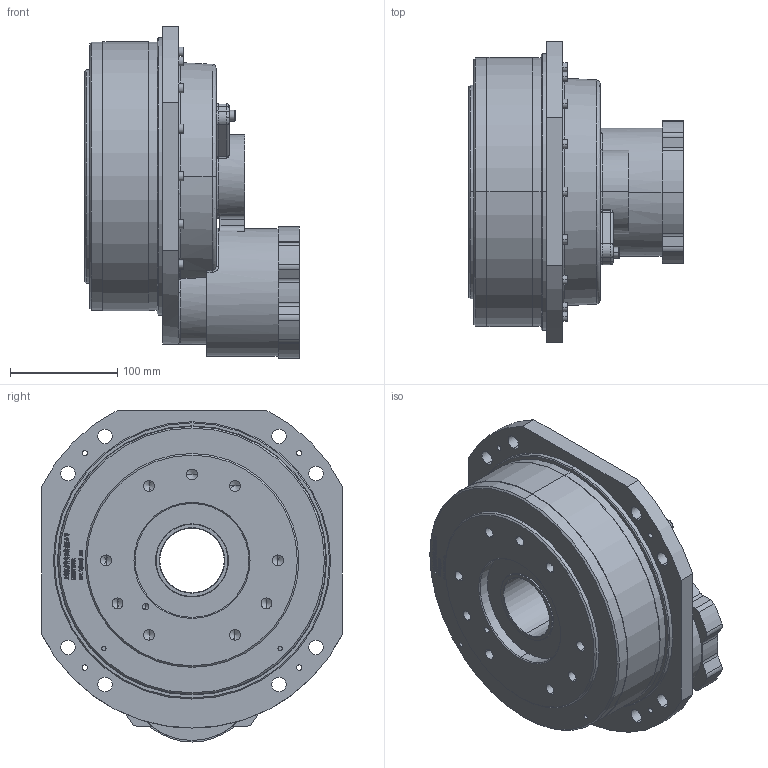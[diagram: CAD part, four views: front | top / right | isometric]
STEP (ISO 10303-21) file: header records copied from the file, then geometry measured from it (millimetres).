
FILE_DESCRIPTION (( 'STEP AP203' ), '1' );
FILE_NAME ('FXD-C炵蹈熬厒儂[RD-100C].STEP', '2020-07-21T16:07:37', ( '' ), ( '' ), 'SwSTEP 2.0', 'SolidWorks 2016', '' );
FILE_SCHEMA (( 'CONFIG_CONTROL_DESIGN' ));
Length unit declared in the file: millimetre
Products named in the file (1): FXD-C炵蹈熬厒儂[RD-100C]
Bounding box: 200.1 x 280 x 309 mm (x, y, z)
Volume: 6218294.2 mm3; surface area: 336305.9 mm2
Topology: 1 solids, 2 shells, 2067 faces, 5785 edges, 3802 vertices
Faces by surface type: plane 1172, bspline 615, cylinder 176, cone 85, torus 16, sphere 3
Entity records: 90773 total; most frequent: CARTESIAN_POINT 41824, ORIENTED_EDGE 11448, DIRECTION 7800, EDGE_CURVE 5724, VECTOR 3898, LINE 3898, VERTEX_POINT 3802, EDGE_LOOP 2236
